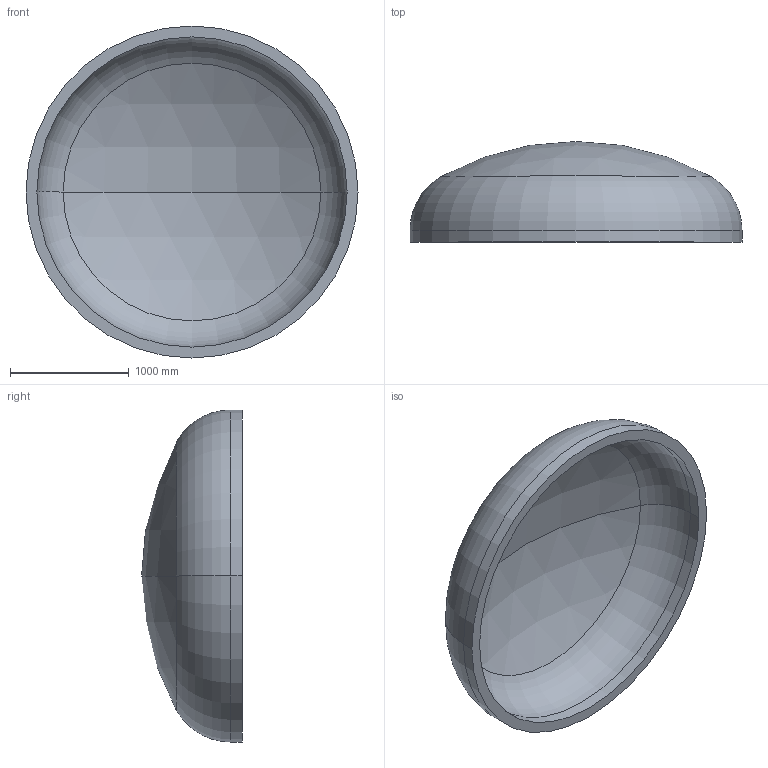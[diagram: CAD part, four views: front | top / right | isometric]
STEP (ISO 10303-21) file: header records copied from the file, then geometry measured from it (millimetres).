
FILE_DESCRIPTION (( 'STEP AP203' ), '1' );
FILE_NAME ('DIN 28013 Korbbogenform_-_Boden DIN 28013 - 2800 x 100 - I - s=92.step', '2016-07-01T17:15:38', ( '' ), ( '' ), 'SwSTEP 2.0', 'SolidWorks 2013', '' );
FILE_SCHEMA (( 'CONFIG_CONTROL_DESIGN' ));
Length unit declared in the file: millimetre
Products named in the file (1): DIN 28013 Korbbogenform_-_Boden DIN 28013 - 2800 x 100 - I - s=92
Bounding box: 2800 x 849.21 x 2800 mm (x, y, z)
Volume: 829540084.7 mm3; surface area: 18833885.1 mm2
Topology: 1 solids, 1 shells, 13 faces, 24 edges, 14 vertices
Faces by surface type: torus 4, cylinder 4, sphere 4, plane 1
Entity records: 407 total; most frequent: DIRECTION 72, CARTESIAN_POINT 52, ORIENTED_EDGE 48, AXIS2_PLACEMENT_3D 34, EDGE_CURVE 24, CIRCLE 20, VERTEX_POINT 14, EDGE_LOOP 14
